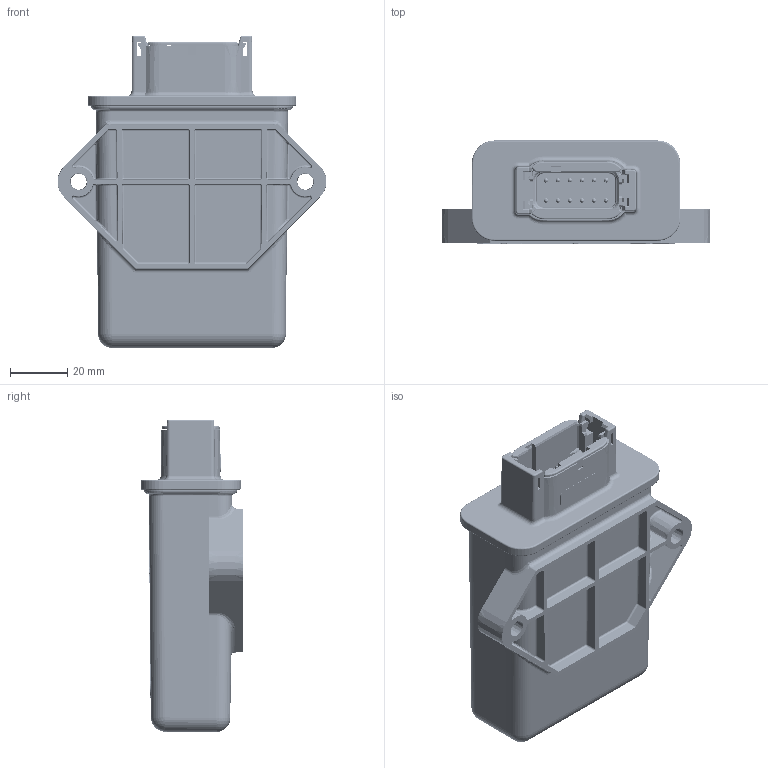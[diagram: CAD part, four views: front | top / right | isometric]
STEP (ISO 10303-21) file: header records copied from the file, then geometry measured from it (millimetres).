
FILE_DESCRIPTION(/* description */ ('H Bridge Controller, J1939'),/* implementation_level */ '2;1');
FILE_NAME(/* name */ 'S:\Projects\3IN-HSLS-SFTY-VREF-CAN, AX103000, Proj_21037\MECHANICAL\rev A\AX103000.stp',/* time_stamp */ '2025-03-10T17:04:55-04:00',/* author */ ('AutoDeskUser'),/* organization */ (''),/* preprocessor_version */ 'ST-DEVELOPER v18.1',/* originating_system */ 'Autodesk Inventor 2021',/* authorisation */ '');
FILE_SCHEMA (('AUTOMOTIVE_DESIGN { 1 0 10303 214 3 1 1 }'));
Products named in the file (16): FG-AX103000 for STEP; MG-21037-01 fior STEP; SMT-21037-01; IJT-21036-01-R1; IJT-21036-01-R1_1; IJT-21036-02-R1; IJT-21036-02-R1_1; Large Pin; Short Pin; IJT-20025-01-R2; PL-2-28X0250SSPPU; LBM-SERIAL-01-R2; E-RTV-3145-CLR-305; DEUT 1011-052-1205; DEUT 1010-042-1206; LBM-AX103000-01-R1 for STEP
Assembly tree (27 placements, depth 5):
  FG-AX103000 for STEP
    MG-21037-01 fior STEP
      SMT-21037-01
      IJT-21036-01-R1
        IJT-21036-01-R1_1
        IJT-21036-02-R1
          IJT-21036-02-R1_1
          Large Pin  x6
          Short Pin  x6
      IJT-20025-01-R2
      PL-2-28X0250SSPPU  x2
      LBM-SERIAL-01-R2  x2
      E-RTV-3145-CLR-305
    DEUT 1011-052-1205
    DEUT 1010-042-1206
    LBM-AX103000-01-R1 for STEP
Bounding box: 93.6 x 35.8 x 108.66 mm (x, y, z)
Volume: 58985.9 mm3; surface area: 86468.7 mm2
Topology: 526 solids, 527 shells, 34625 faces, 96485 edges, 62525 vertices
Faces by surface type: plane 27181, cylinder 4943, bspline 1148, sphere 1091, torus 153, cone 109
Full cylindrical faces by diameter (mm): 0.142 x2, 0.15 x1, 0.2 x1, 0.305 x610, 0.375 x3, 0.408 x1, 0.508 x12, 0.857 x1, 0.991 x60, 1 x1, 1.016 x26, 1.346 x24, 1.93 x2, 2.184 x2, 2.591 x2, 5.8 x1, 6.462 x3, 7.5 x1, 9 x1, 9.8 x1, 9.85 x2
Entity records: 1155031 total; most frequent: CARTESIAN_POINT 231617, ORIENTED_EDGE 190982, DIRECTION 173595, EDGE_CURVE 95491, LINE 81237, VECTOR 81237, VERTEX_POINT 62467, AXIS2_PLACEMENT_3D 46179
